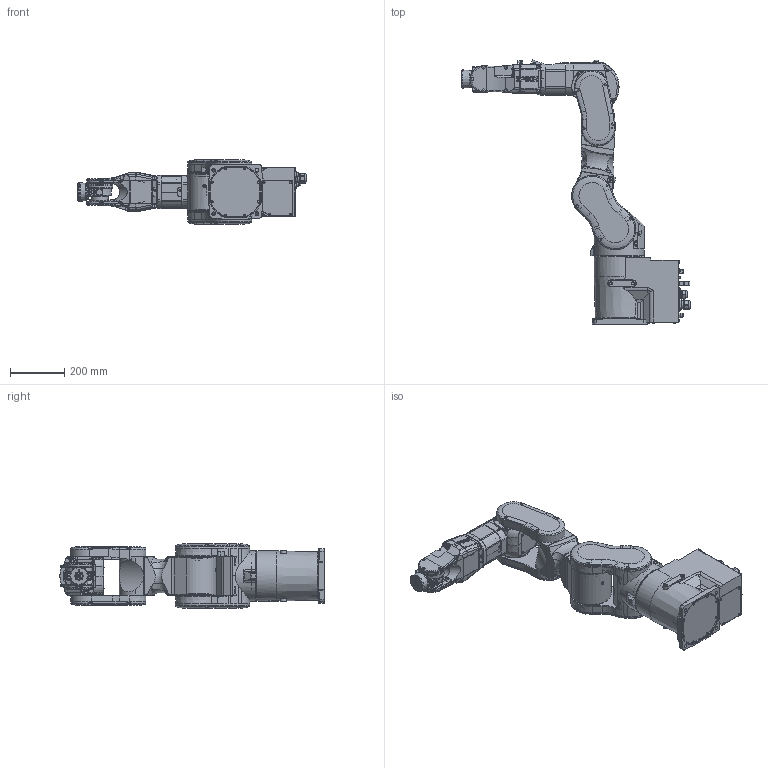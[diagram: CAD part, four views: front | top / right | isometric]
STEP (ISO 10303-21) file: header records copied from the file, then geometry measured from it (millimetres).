
FILE_DESCRIPTION(/* description */ ('STEP AP203'),/* implementation_level */ '2;1');
FILE_NAME(/* name */ 'C8-B901S ',/* time_stamp */ '2025-09-25T09:47:39+02:00',/* author */ ('License CC BY-ND 4.0'),/* organization */ ('CADENAS'),/* preprocessor_version */ 'ST-DEVELOPER v19.3',/* originating_system */ 'PARTsolutions',/* authorisation */ ' ');
FILE_SCHEMA (('CONFIG_CONTROL_DESIGN'));
Products named in the file (8): C8-B901S ; Base C8SR; J1 C8S; J2 C8LS; J3 C8LS (1); J4 C8LS; J5 C8S; J6 C8S
Assembly tree (7 placements, depth 2):
  C8-B901S 
    Base C8SR
    J1 C8S
    J2 C8LS
    J3 C8LS (1)
    J4 C8LS
    J5 C8S
    J6 C8S
Bounding box: 841 x 972.49 x 236 mm (x, y, z)
Volume: 33494470.2 mm3; surface area: 1669517.2 mm2
Topology: 7 solids, 9 shells, 3387 faces, 8574 edges, 5542 vertices
Faces by surface type: plane 1745, cylinder 1023, cone 378, torus 200, sphere 41
Full cylindrical faces by diameter (mm): 1 x30, 2.459 x4, 3 x2, 3.242 x21, 3.3 x4, 4 x2, 4.134 x5, 4.5 x8, 5 x3, 5.5 x4, 6 x8, 7 x45, 7.647 x1, 7.9 x4, 8 x11, 8.5 x4, 9 x6, 9.5 x6, 10 x7, 10.106 x9, 10.2 x1, 10.4 x2, 11 x3, 12 x2, 13 x11, 14 x2, 16 x1, 17 x1, 17.8 x1, 18.5 x1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
Entity records: 122504 total; most frequent: CARTESIAN_POINT 19775, DIRECTION 16803, ORIENTED_EDGE 15614, EDGE_CURVE 7807, AXIS2_PLACEMENT_3D 6273, VERTEX_POINT 5403, FACE_BOUND 4372, EDGE_LOOP 4327
